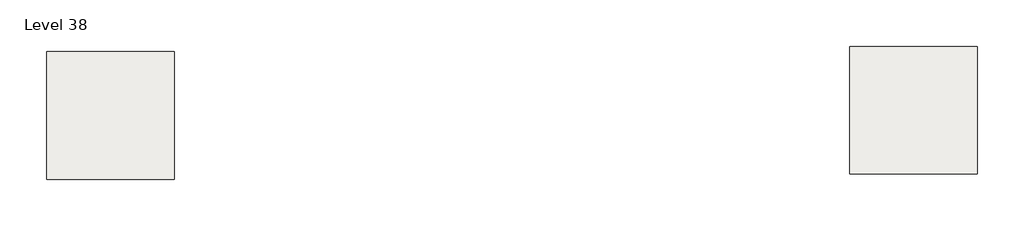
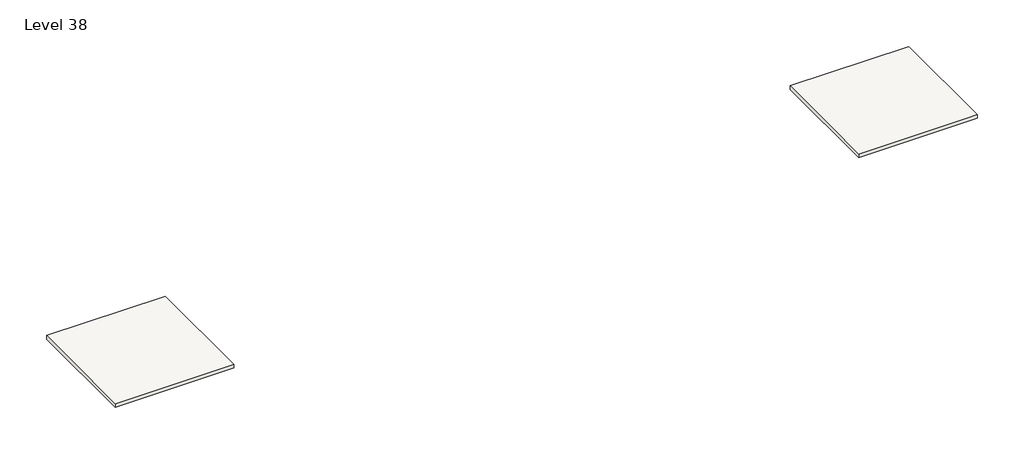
# One storey: 4 slabs.
"""IFC4 building model written with IfcOpenShell, lengths in millimetres."""

from ifc_helpers import new_model, si_unit, frame, origin, place, context, project, spatial, polyline, outline, extrude, element, save

model = new_model("IFC4")

# Units and contexts
model_context = context("Model", 3, world=origin())
ifc_project = project(units=[si_unit("LENGTHUNIT", "METRE", prefix="MILLI")], contexts=[model_context])

# Site, building, storey
site = spatial("IfcSite", under=ifc_project)
building = spatial("IfcBuilding", under=site)
storey = spatial("IfcBuildingStorey", under=building, Name="Level 38", Elevation=112776.0)

# Slabs
placement = place(None, origin())
element("IfcSlab", 1, ObjectType="Generic - 12\"", at=placement, inside=storey, context=model_context, shape_type="SweptSolid", body=[
    extrude(outline(polyline([(-8641.8488996, 6449.9495511), (-8641.8488996, -2694.0504489), (-17785.8488996, -2694.0504489), (-17785.8488996, 6449.9495511), (-8641.8488996, 6449.9495511)])), frame((0.0, 0.0, 112471.2), z_axis=(0.0, 0.0, 1.0), x_axis=(1.0, 0.0, 0.0)), (0.0, 0.0, 1.0), 304.8),
])
element("IfcSlab", 2, ObjectType="Generic - 12\"", at=placement, inside=storey, context=model_context, shape_type="SweptSolid", body=[
    extrude(outline(polyline([(-8641.8488996, 6449.9495511), (-8641.8488996, -2694.0504489), (-17785.8488996, -2694.0504489), (-17785.8488996, 6449.9495511), (-8641.8488996, 6449.9495511)])), frame((0.0, 0.0, 112471.2), z_axis=(0.0, 0.0, 1.0), x_axis=(1.0, 0.0, 0.0)), (0.0, 0.0, 1.0), 304.8),
])
element("IfcSlab", 3, ObjectType="Generic - 12\"", at=placement, inside=storey, context=model_context, shape_type="SweptSolid", body=[
    extrude(outline(polyline([(48791.8576677, 6827.0904402), (48791.8576677, -2316.9095598), (39647.8576677, -2316.9095598), (39647.8576677, 6827.0904402), (48791.8576677, 6827.0904402)])), frame((0.0, 0.0, 112471.2), z_axis=(0.0, 0.0, 1.0), x_axis=(1.0, 0.0, 0.0)), (0.0, 0.0, 1.0), 304.8),
])
element("IfcSlab", 4, ObjectType="Generic - 12\"", at=placement, inside=storey, context=model_context, shape_type="SweptSolid", body=[
    extrude(outline(polyline([(48791.8576677, 6827.0904402), (48791.8576677, -2316.9095598), (39647.8576677, -2316.9095598), (39647.8576677, 6827.0904402), (48791.8576677, 6827.0904402)])), frame((0.0, 0.0, 112471.2), z_axis=(0.0, 0.0, 1.0), x_axis=(1.0, 0.0, 0.0)), (0.0, 0.0, 1.0), 304.8),
])

save(model, "model.ifc")
